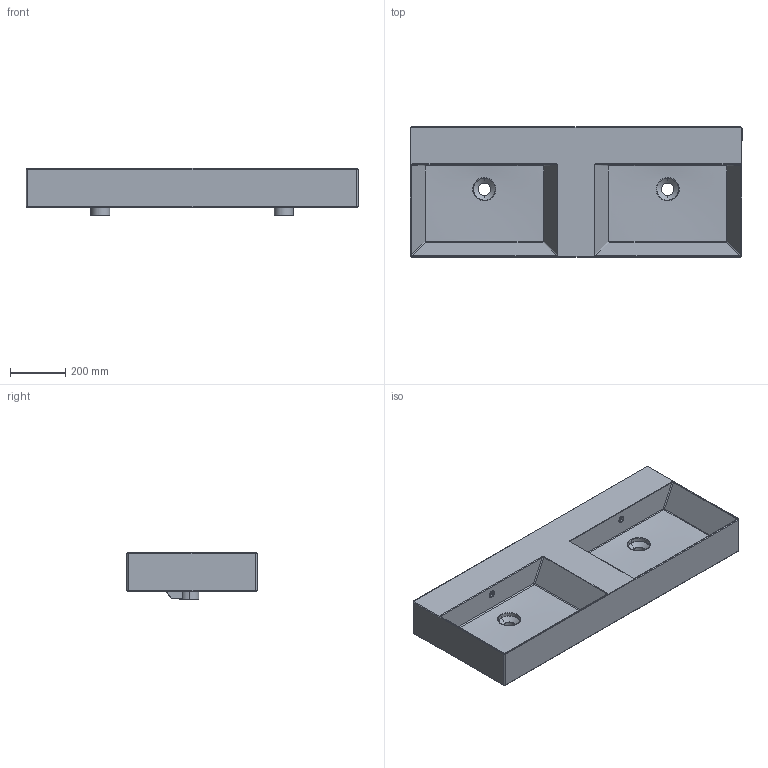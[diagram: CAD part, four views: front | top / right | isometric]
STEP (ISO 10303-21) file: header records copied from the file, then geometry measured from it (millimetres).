
FILE_DESCRIPTION(/* description */ (''),/* implementation_level */ '2;1');
FILE_NAME(/* name */ 'AP120L',/* time_stamp */ '2023-05-09T10:20:03+02:00',/* author */ (''),/* organization */ (''),/* preprocessor_version */ 'ST-DEVELOPER v16.5',/* originating_system */ 'Rhino 7.28',/* authorisation */ '');
FILE_SCHEMA (('CONFIG_CONTROL_DESIGN'));
Length unit declared in the file: millimetre
Products named in the file (1): Document
Bounding box: 1200 x 470 x 170 mm (x, y, z)
Volume: 50472365 mm3; surface area: 1836025.5 mm2
Topology: 1 solids, 1 shells, 162 faces, 356 edges, 200 vertices
Faces by surface type: bspline 76, cylinder 58, plane 28
Full cylindrical faces by diameter (mm): 22 x2, 30 x2
Entity records: 29894 total; most frequent: CARTESIAN_POINT 27695, ORIENTED_EDGE 704, EDGE_CURVE 352, VERTEX_POINT 200, EDGE_LOOP 174, ADVANCED_FACE 162, FACE_OUTER_BOUND 162, DIRECTION 90
